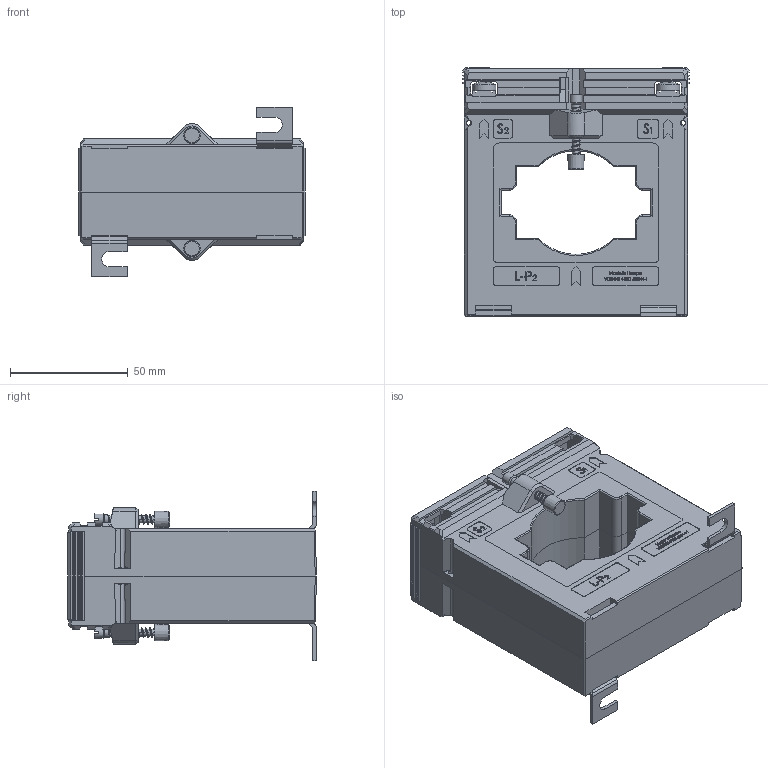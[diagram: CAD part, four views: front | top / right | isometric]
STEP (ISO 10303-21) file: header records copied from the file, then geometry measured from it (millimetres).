
FILE_DESCRIPTION(/* description */ ('STEP AP214'),/* implementation_level */ '2;1');
FILE_NAME(/* name */ 'ASK61.4.stp',/* time_stamp */ '2024-03-04T12:55:53+01:00',/* author */ ('JDI'),/* organization */ (''),/* preprocessor_version */ 'ST-DEVELOPER v19.2',/* originating_system */ 'Autodesk Inventor 2023',/* authorisation */ '');
FILE_SCHEMA (('AUTOMOTIVE_DESIGN { 1 0 10303 214 3 1 1 }'));
Products named in the file (9): ASK61_4_kpl; Verschlussklappe_38mm; Fusswinkel_1,5; MBS_WN-003_04_Klemme_WN-003_02; Plastite_Schraube_30_mit-Gewinde; ASK61_4_11_Gehäuseoberteil; Linsenschraube DIN 7985 4.8 VZ M 5 x 10; Isolierschutzkappe; ASK61_4_11
Assembly tree (16 placements, depth 2):
  ASK61_4_kpl
    MBS_WN-003_04_Klemme_WN-003_02  x2
    Fusswinkel_1,5  x2
    Isolierschutzkappe  x2
    Linsenschraube DIN 7985 4.8 VZ M 5 x 10  x4
    Verschlussklappe_38mm  x2
    Plastite_Schraube_30_mit-Gewinde  x2
    ASK61_4_11_Gehäuseoberteil
    ASK61_4_11
Bounding box: 96 x 105.5 x 72 mm (x, y, z)
Volume: 308001.1 mm3; surface area: 72297.9 mm2
Topology: 16 solids, 16 shells, 1836 faces, 4786 edges, 3112 vertices
Faces by surface type: plane 1266, bspline 318, cylinder 190, cone 38, torus 16, sphere 8
Full cylindrical faces by diameter (mm): 2.95 x2, 3 x28, 3.8 x2, 4 x24, 4.1 x2, 4.2 x4, 5 x6, 10 x4
Entity records: 68979 total; most frequent: CARTESIAN_POINT 31098, ORIENTED_EDGE 8442, DIRECTION 6394, EDGE_CURVE 4221, LINE 3206, VECTOR 3206, VERTEX_POINT 2773, EDGE_LOOP 1742
